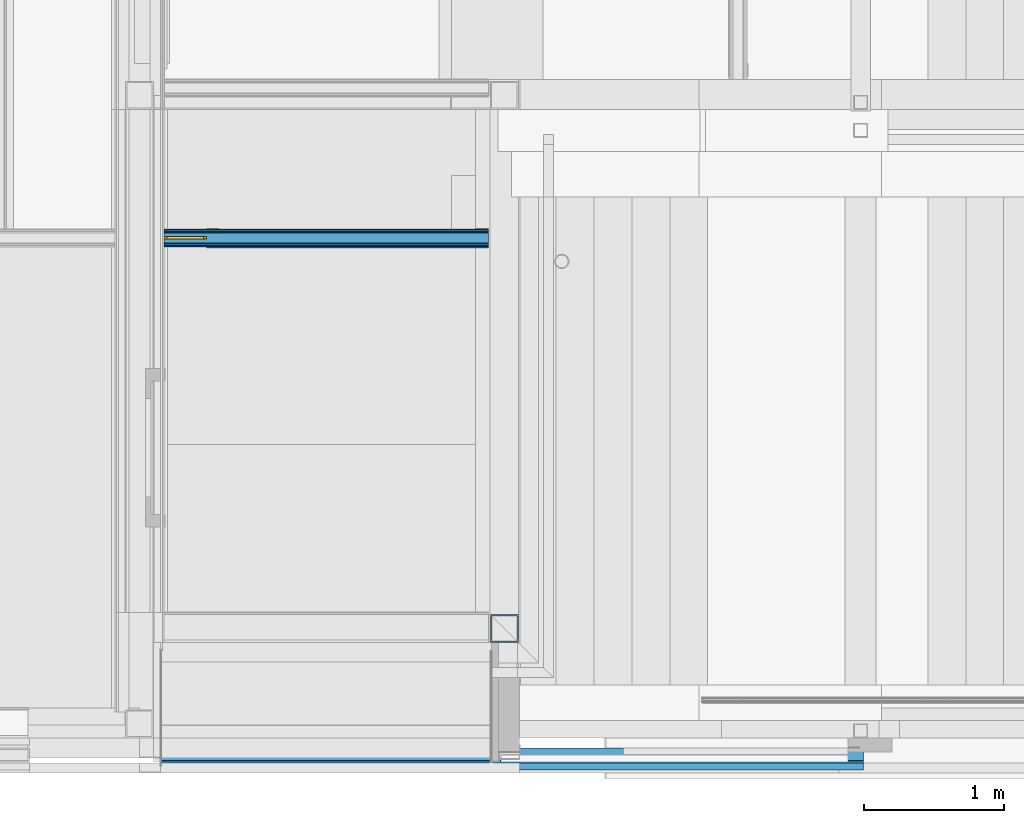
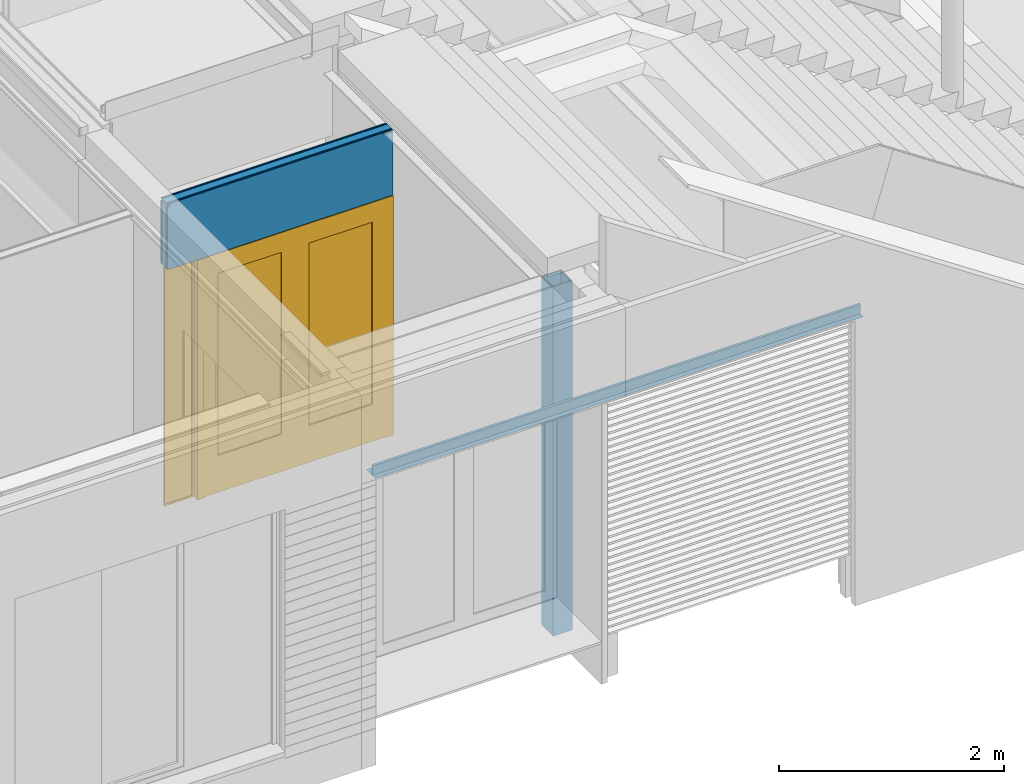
# One storey, part 45 of 165: 8 building element parts, 2 doors, 2 openings, 3 elements without a shape of their own.
"""IFC2X3 building model written with IfcOpenShell, lengths in millimetres."""

from ifc_helpers import new_model, entity, si_unit, converted_unit, derived_unit, money_unit, direction, frame, origin_with_axes, place, context, subcontext, project, spatial, open_shell, faceted_brep, surface_model, material, type_object, element, fill, aggregate, save


model = new_model("IFC2X3")

# Units and contexts
model_context = context("Model", 3, precision=0.01, world=origin_with_axes(), true_north=direction((0.0, 1.0)))
body_context = subcontext(model_context, "Body", "Model", "MODEL_VIEW")
ifc_project = project(units=[si_unit("LENGTHUNIT", "METRE", prefix="MILLI"), si_unit("AREAUNIT", "SQUARE_METRE"), si_unit("VOLUMEUNIT", "CUBIC_METRE"), converted_unit("PLANEANGLEUNIT", "DEGREE", entity("IfcPlaneAngleMeasure", 0.0174532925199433), si_unit("PLANEANGLEUNIT", "RADIAN"), dimensions=[0, 0, 0, 0, 0, 0, 0]), money_unit("EUR"), converted_unit("TIMEUNIT", "Year", entity("IfcTimeMeasure", 31556926.0), si_unit("TIMEUNIT", "SECOND"), dimensions=[0, 0, 1, 0, 0, 0, 0]), si_unit("MASSUNIT", "GRAM", prefix="KILO"), si_unit("THERMODYNAMICTEMPERATUREUNIT", "DEGREE_CELSIUS"), si_unit("LUMINOUSINTENSITYUNIT", "LUMEN"), si_unit("ENERGYUNIT", "JOULE", prefix="MEGA"), derived_unit("THERMALCONDUCTANCEUNIT", [(si_unit("POWERUNIT", "WATT"), 1), (si_unit("LENGTHUNIT", "METRE"), -1), (si_unit("THERMODYNAMICTEMPERATUREUNIT", "KELVIN"), -1)]), derived_unit("SPECIFICHEATCAPACITYUNIT", [(si_unit("ENERGYUNIT", "JOULE"), 1), (si_unit("MASSUNIT", "GRAM", prefix="KILO"), -1), (si_unit("THERMODYNAMICTEMPERATUREUNIT", "KELVIN"), -1)]), derived_unit("MASSDENSITYUNIT", [(si_unit("MASSUNIT", "GRAM", prefix="KILO"), 1), (si_unit("VOLUMEUNIT", "CUBIC_METRE"), -1)])], contexts=[model_context])

# Site, building, storey
site_placement = place(None, origin_with_axes())
site = spatial("IfcSite", under=ifc_project, at=site_placement, Name="Site", CompositionType="ELEMENT")
building_placement = place(site_placement, origin_with_axes())
building = spatial("IfcBuilding", under=site, at=building_placement, Name="Naam gebouw", CompositionType="ELEMENT")
storey_placement = place(building_placement, origin_with_axes())
storey = spatial("IfcBuildingStorey", under=building, at=storey_placement, Name="Begane grond", CompositionType="ELEMENT", Elevation=0.0)

# Door
door_style_1 = type_object("IfcDoorStyle", Name="R1 26", ConstructionType="NOTDEFINED", OperationType="SINGLE_SWING_RIGHT", ParameterTakesPrecedence=False, Sizeable=False)
proxy_placement = place(storey_placement, frame((8850.000000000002, 3624.995712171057, -100.0), z_axis=(0.0, 0.0, 1.0), x_axis=(1.0, 0.0, 0.0)))
opening_2_placement = place(proxy_placement, frame((325.5000000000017, 0.0, 100.0), z_axis=(0.0, 0.0, 1.0), x_axis=(1.0, 0.0, 0.0)))
door_1_placement = place(opening_2_placement, frame((-150.500000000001, 0.0, 0.0), z_axis=(0.0, 0.0, 1.0), x_axis=(1.0, 0.0, 0.0)))
door_1 = element("IfcDoor", 1, at=door_1_placement, inside=storey, type_object=door_style_1, Name="_B.16", ObjectType="DOOR", OverallHeight=2600.0, OverallWidth=301.0, context=body_context, shape_type="SurfaceModel", body=[
    faceted_brep([(281.0000000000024, -69.99999999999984, 2580.0), (301.0000000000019, -69.99999999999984, 2580.0), (301.0000000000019, -49.99999999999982, 2580.0), (281.0000000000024, -49.99999999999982, 2580.0), (281.0000000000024, -69.99999999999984, 20.0), (301.0000000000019, -69.99999999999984, 20.0), (301.0000000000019, -49.99999999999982, 20.0), (281.0000000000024, -49.99999999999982, 20.0)], [[[0, 1, 2, 3]], [[0, 4, 5, 1]], [[1, 5, 6, 2]], [[3, 2, 6, 7]], [[4, 0, 3, 7]], [[5, 4, 7, 6]]]),
    faceted_brep([(19.99999999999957, -69.99999999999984, 20.0), (0.0, -69.99999999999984, 20.0), (0.0, -49.99999999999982, 20.0), (19.99999999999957, -49.99999999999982, 20.0), (19.99999999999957, -69.99999999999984, 2580.0), (0.0, -69.99999999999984, 2580.0), (0.0, -49.99999999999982, 2580.0), (19.99999999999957, -49.99999999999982, 2580.0)], [[[0, 1, 2, 3]], [[0, 4, 5, 1]], [[1, 5, 6, 2]], [[3, 2, 6, 7]], [[4, 0, 3, 7]], [[5, 4, 7, 6]]]),
    faceted_brep([(281.0000000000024, -69.99999999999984, 20.0), (301.0000000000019, -69.99999999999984, 20.0), (301.0000000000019, -49.99999999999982, 20.0), (281.0000000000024, -49.99999999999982, 20.0), (19.99999999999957, -69.99999999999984, 20.0), (0.0, -69.99999999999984, 20.0), (0.0, -69.99999999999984, 0.0), (301.0000000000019, -69.99999999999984, 0.0), (301.0000000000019, -49.99999999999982, 0.0), (0.0, -49.99999999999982, 0.0), (0.0, -49.99999999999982, 20.0), (19.99999999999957, -49.99999999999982, 20.0)], [[[0, 1, 2, 3]], [[0, 4, 5, 6, 7, 1]], [[1, 7, 8, 2]], [[3, 2, 8, 9, 10, 11]], [[4, 0, 3, 11]], [[5, 4, 11, 10]], [[6, 5, 10, 9]], [[7, 6, 9, 8]]]),
    faceted_brep([(19.99999999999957, -69.99999999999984, 2580.0), (0.0, -69.99999999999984, 2580.0), (0.0, -49.99999999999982, 2580.0), (19.99999999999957, -49.99999999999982, 2580.0), (281.0000000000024, -69.99999999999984, 2580.0), (301.0000000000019, -69.99999999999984, 2580.0), (301.0000000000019, -69.99999999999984, 2600.0), (0.0, -69.99999999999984, 2600.0), (0.0, -49.99999999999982, 2600.0), (301.0000000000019, -49.99999999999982, 2600.0), (301.0000000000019, -49.99999999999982, 2580.0), (281.0000000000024, -49.99999999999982, 2580.0)], [[[0, 1, 2, 3]], [[0, 4, 5, 6, 7, 1]], [[1, 7, 8, 2]], [[3, 2, 8, 9, 10, 11]], [[4, 0, 3, 11]], [[5, 4, 11, 10]], [[6, 5, 10, 9]], [[7, 6, 9, 8]]]),
    surface_model("IfcShellBasedSurfaceModel", [(281.0000000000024, -64.99999999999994, 20.0), (281.0000000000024, -64.99999999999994, 2580.0), (19.99999999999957, -64.99999999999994, 2580.0), (19.99999999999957, -64.99999999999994, 20.0)], [open_shell([[[0, 1, 2, 3]]])]),
    surface_model("IfcShellBasedSurfaceModel", [(281.0000000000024, -54.99999999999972, 20.0), (19.99999999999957, -54.99999999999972, 20.0), (19.99999999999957, -55.00000000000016, 2580.0), (281.0000000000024, -55.00000000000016, 2580.0)], [open_shell([[[0, 1, 2, 3]]])]),
])

door_style_2 = type_object("IfcDoorStyle", Name="D2 26", ConstructionType="NOTDEFINED", OperationType="DOUBLE_DOOR_SINGLE_SWING", ParameterTakesPrecedence=False, Sizeable=False)
opening_1_placement = place(proxy_placement, frame((1481.000000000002, 0.0, 100.0), z_axis=(0.0, 0.0, 1.0), x_axis=(1.0, 0.0, 0.0)))
door_2_placement = place(opening_1_placement, frame((914.9999999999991, 0.0, 0.0), z_axis=(0.0, 0.0, 1.0), x_axis=(-1.0, 0.0, 0.0)))
door_2 = element("IfcDoor", 2, at=door_2_placement, inside=storey, type_object=door_style_2, Name="_03.02", ObjectType="DOOR", OverallHeight=2600.0, OverallWidth=2010.0, context=body_context, shape_type="SurfaceModel", body=[
    faceted_brep([(1830.0, 92.00000000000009, 0.0), (1830.0, -7.000000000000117, 0.0), (1830.0, -7.000000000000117, 2510.0), (1830.0, 91.99999999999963, 2510.0), (1847.0, 92.00000000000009, 0.0), (1847.0, 132.0000000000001, 0.0), (1920.0, 132.0000000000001, 0.0), (1920.0, -7.000000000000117, 0.0), (1920.0, -7.000000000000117, 2510.0), (1847.0, 91.99999999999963, 2510.0), (1920.0, 131.9999999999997, 2510.0), (1847.0, 131.9999999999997, 2510.0)], [[[0, 1, 2, 3]], [[4, 5, 6, 7, 1, 0]], [[1, 7, 8, 2]], [[9, 3, 2, 8, 10, 11]], [[9, 4, 0, 3]], [[11, 5, 4, 9]], [[11, 10, 6, 5]], [[6, 10, 8, 7]]]),
    faceted_brep([(-17.00000000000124, 92.00000000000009, 2510.0), (-17.00000000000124, 132.0000000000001, 2510.0), (-90.00000000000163, 132.0000000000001, 2510.0), (-90.00000000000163, -7.000000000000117, 2510.0), (0.0, -7.000000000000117, 2510.0), (0.0, 92.00000000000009, 2510.0), (-17.00000000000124, 92.00000000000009, 0.0), (-17.00000000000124, 132.0000000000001, 0.0), (-90.00000000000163, 132.0000000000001, 0.0), (-90.00000000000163, -6.999999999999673, 0.0), (0.0, -6.999999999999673, 0.0), (0.0, 92.00000000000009, 0.0)], [[[0, 1, 2, 3, 4, 5]], [[0, 6, 7, 1]], [[7, 8, 2, 1]], [[2, 8, 9, 3]], [[3, 9, 10, 4]], [[5, 4, 10, 11]], [[5, 11, 6, 0]], [[6, 11, 10, 9, 8, 7]]]),
    faceted_brep([(1847.0, 131.9999999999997, 2527.0), (-17.00000000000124, 132.0000000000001, 2527.0), (-17.00000000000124, 132.0000000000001, 2510.0), (-90.00000000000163, 132.0000000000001, 2510.0), (-90.00000000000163, 132.0000000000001, 2600.0), (1920.0, 131.9999999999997, 2600.0), (1920.0, 131.9999999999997, 2510.0), (1847.0, 131.9999999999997, 2510.0), (1847.0, 91.99999999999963, 2527.0), (-17.00000000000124, 92.00000000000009, 2527.0), (-17.00000000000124, 92.00000000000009, 2510.0), (0.0, 92.00000000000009, 2510.0), (0.0, -7.000000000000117, 2510.0), (-90.00000000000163, -7.000000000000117, 2510.0), (-90.00000000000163, -7.000000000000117, 2600.0), (1920.0, -7.000000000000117, 2600.0), (1920.0, -7.000000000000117, 2510.0), (1847.0, 91.99999999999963, 2510.0), (1830.0, -7.000000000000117, 2510.0), (1830.0, 91.99999999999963, 2510.0)], [[[0, 1, 2, 3, 4, 5, 6, 7]], [[0, 8, 9, 1]], [[1, 9, 10, 2]], [[10, 11, 12, 13, 3, 2]], [[4, 3, 13, 14]], [[5, 4, 14, 15]], [[6, 5, 15, 16]], [[17, 7, 6, 16, 18, 19]], [[7, 17, 8, 0]], [[10, 9, 8, 17, 19, 11]], [[19, 18, 12, 11]], [[12, 18, 16, 15, 14, 13]]]),
    faceted_brep([(-17.00000000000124, 132.0000000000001, 410.0000000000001), (122.9999999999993, 132.0000000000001, 410.0000000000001), (122.9999999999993, 92.00000000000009, 410.0000000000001), (-17.00000000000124, 92.00000000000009, 410.0000000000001), (-17.00000000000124, 132.0000000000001, 2387.0), (122.9999999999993, 132.0000000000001, 2387.0), (122.9999999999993, 92.00000000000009, 2387.0), (-17.00000000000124, 92.00000000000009, 2387.0)], [[[0, 1, 2, 3]], [[0, 4, 5, 1]], [[1, 5, 6, 2]], [[3, 2, 6, 7]], [[4, 0, 3, 7]], [[5, 4, 7, 6]]]),
    faceted_brep([(914.9999999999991, 132.0000000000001, 410.0000000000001), (914.9999999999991, 131.9999999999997, 2387.0), (914.9999999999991, 91.99999999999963, 2387.0), (914.9999999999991, 92.00000000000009, 410.0000000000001), (774.9999999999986, 132.0000000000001, 410.0000000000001), (774.9999999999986, 131.9999999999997, 2387.0), (774.9999999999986, 91.99999999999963, 2387.0), (774.9999999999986, 92.00000000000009, 410.0000000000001)], [[[0, 1, 2, 3]], [[0, 4, 5, 1]], [[1, 5, 6, 2]], [[3, 2, 6, 7]], [[4, 0, 3, 7]], [[5, 4, 7, 6]]]),
    faceted_brep([(-17.00000000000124, 132.0000000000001, 10.0), (914.9999999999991, 132.0000000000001, 10.0), (914.9999999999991, 92.00000000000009, 9.999999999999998), (-17.00000000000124, 92.00000000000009, 9.999999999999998), (-17.00000000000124, 132.0000000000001, 410.0000000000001), (122.9999999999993, 132.0000000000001, 410.0000000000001), (774.9999999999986, 132.0000000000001, 410.0000000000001), (914.9999999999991, 132.0000000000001, 410.0000000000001), (914.9999999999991, 92.00000000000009, 410.0000000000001), (774.9999999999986, 92.00000000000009, 410.0000000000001), (122.9999999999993, 92.00000000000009, 410.0000000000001), (-17.00000000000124, 92.00000000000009, 410.0000000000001)], [[[0, 1, 2, 3]], [[0, 4, 5, 6, 7, 1]], [[1, 7, 8, 2]], [[3, 2, 8, 9, 10, 11]], [[4, 0, 3, 11]], [[5, 4, 11, 10]], [[6, 5, 10, 9]], [[7, 6, 9, 8]]]),
    faceted_brep([(-17.00000000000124, 132.0000000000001, 2527.0), (-17.00000000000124, 132.0000000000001, 2387.0), (-17.00000000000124, 92.00000000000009, 2387.0), (-17.00000000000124, 92.00000000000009, 2527.0), (914.9999999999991, 131.9999999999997, 2527.0), (914.9999999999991, 131.9999999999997, 2387.0), (774.9999999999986, 131.9999999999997, 2387.0), (122.9999999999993, 132.0000000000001, 2387.0), (122.9999999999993, 92.00000000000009, 2387.0), (774.9999999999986, 91.99999999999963, 2387.0), (914.9999999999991, 91.99999999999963, 2387.0), (914.9999999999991, 91.99999999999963, 2527.0)], [[[0, 1, 2, 3]], [[0, 4, 5, 6, 7, 1]], [[1, 7, 8, 2]], [[3, 2, 8, 9, 10, 11]], [[4, 0, 3, 11]], [[5, 4, 11, 10]], [[6, 5, 10, 9]], [[7, 6, 9, 8]]]),
    surface_model("IfcShellBasedSurfaceModel", [(122.9999999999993, 118.0000000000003, 410.0000000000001), (122.9999999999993, 117.9999999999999, 2387.0), (774.9999999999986, 117.9999999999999, 2387.0), (774.9999999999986, 118.0000000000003, 410.0000000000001)], [open_shell([[[0, 1, 2, 3]]])]),
    surface_model("IfcShellBasedSurfaceModel", [(122.9999999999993, 106.0000000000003, 410.0000000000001), (774.9999999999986, 106.0000000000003, 410.0000000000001), (774.9999999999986, 105.9999999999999, 2387.0), (122.9999999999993, 105.9999999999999, 2387.0)], [open_shell([[[0, 1, 2, 3]]])]),
    faceted_brep([(1847.0, 132.0000000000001, 410.0000000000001), (1847.0, 92.00000000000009, 410.0000000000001), (1706.999999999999, 92.00000000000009, 410.0000000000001), (1706.999999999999, 132.0000000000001, 410.0000000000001), (1847.0, 131.9999999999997, 2387.0), (1847.0, 91.99999999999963, 2387.0), (1706.999999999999, 91.99999999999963, 2387.0), (1706.999999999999, 131.9999999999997, 2387.0)], [[[0, 1, 2, 3]], [[4, 5, 1, 0]], [[1, 5, 6, 2]], [[3, 2, 6, 7]], [[0, 3, 7, 4]], [[7, 6, 5, 4]]]),
    faceted_brep([(914.9999999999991, 132.0000000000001, 410.0000000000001), (914.9999999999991, 92.00000000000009, 410.0000000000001), (914.9999999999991, 91.99999999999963, 2387.0), (914.9999999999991, 131.9999999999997, 2387.0), (1055.0, 132.0000000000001, 410.0000000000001), (1055.0, 92.00000000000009, 410.0000000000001), (1055.0, 91.99999999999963, 2387.0), (1055.0, 131.9999999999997, 2387.0)], [[[0, 1, 2, 3]], [[4, 5, 1, 0]], [[1, 5, 6, 2]], [[3, 2, 6, 7]], [[0, 3, 7, 4]], [[7, 6, 5, 4]]]),
    faceted_brep([(1847.0, 132.0000000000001, 10.0), (1847.0, 92.00000000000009, 9.999999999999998), (914.9999999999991, 92.00000000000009, 9.999999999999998), (914.9999999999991, 132.0000000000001, 10.0), (1847.0, 132.0000000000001, 410.0000000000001), (1847.0, 92.00000000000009, 410.0000000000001), (1706.999999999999, 92.00000000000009, 410.0000000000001), (1055.0, 92.00000000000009, 410.0000000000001), (914.9999999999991, 92.00000000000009, 410.0000000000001), (914.9999999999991, 132.0000000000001, 410.0000000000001), (1055.0, 132.0000000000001, 410.0000000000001), (1706.999999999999, 132.0000000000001, 410.0000000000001)], [[[0, 1, 2, 3]], [[4, 5, 1, 0]], [[1, 5, 6, 7, 8, 2]], [[3, 2, 8, 9]], [[0, 3, 9, 10, 11, 4]], [[11, 6, 5, 4]], [[10, 7, 6, 11]], [[9, 8, 7, 10]]]),
    faceted_brep([(1847.0, 131.9999999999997, 2527.0), (1847.0, 91.99999999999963, 2527.0), (1847.0, 91.99999999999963, 2387.0), (1847.0, 131.9999999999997, 2387.0), (914.9999999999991, 131.9999999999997, 2527.0), (914.9999999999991, 91.99999999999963, 2527.0), (914.9999999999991, 91.99999999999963, 2387.0), (1055.0, 91.99999999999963, 2387.0), (1706.999999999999, 91.99999999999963, 2387.0), (1706.999999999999, 131.9999999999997, 2387.0), (1055.0, 131.9999999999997, 2387.0), (914.9999999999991, 131.9999999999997, 2387.0)], [[[0, 1, 2, 3]], [[4, 5, 1, 0]], [[1, 5, 6, 7, 8, 2]], [[3, 2, 8, 9]], [[0, 3, 9, 10, 11, 4]], [[11, 6, 5, 4]], [[10, 7, 6, 11]], [[9, 8, 7, 10]]]),
    surface_model("IfcShellBasedSurfaceModel", [(1706.999999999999, 117.9999999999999, 410.0000000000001), (1055.0, 117.9999999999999, 410.0000000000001), (1055.0, 117.9999999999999, 2387.0), (1706.999999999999, 117.9999999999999, 2387.0)], [open_shell([[[0, 1, 2, 3]]])]),
    surface_model("IfcShellBasedSurfaceModel", [(1706.999999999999, 105.9999999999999, 410.0000000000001), (1706.999999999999, 105.9999999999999, 2387.0), (1055.0, 105.9999999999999, 2387.0), (1055.0, 105.9999999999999, 410.0000000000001)], [open_shell([[[0, 1, 2, 3]]])]),
])

# Beam, building element parts
beam_type = type_object("IfcBeamType", Name="41 Latei/geveldrager 158 x 112", PredefinedType="BEAM")
beam_placement = place(storey_placement, frame((14010.0, -180.0001676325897, 2610.0), z_axis=(0.0, 0.0, 1.0), x_axis=(0.0, 1.0, 0.0)))
beam = element("IfcBeam", 3, at=beam_placement, inside=storey, type_object=beam_type, Name="_Regenwaterafvoer-x", ObjectType="BEAM")
ifc_material_1 = material(Name="Metaal - Staal C")
building_element_part_1_placement = place(beam_placement, origin_with_axes())
building_element_part_1 = element("IfcBuildingElementPart", 4, at=building_element_part_1_placement, material=ifc_material_1, Name="Metaal - Staal C", context=body_context, shape_type="Brep", body=[
    faceted_brep([(3.000000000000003, 5010.000000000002, -3.000000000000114), (108.0, 5010.000000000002, -3.000000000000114), (108.0, 0.0, -3.000000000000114), (3.000000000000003, 0.0, -3.000000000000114), (3.000000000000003, 5010.000000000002, 0.0), (108.0, 5010.000000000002, 0.0), (108.0, 0.0, 0.0), (3.000000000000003, 0.0, 0.0)], [[[0, 1, 2, 3]], [[0, 4, 5, 1]], [[1, 5, 6, 2]], [[3, 2, 6, 7]], [[4, 0, 3, 7]], [[5, 4, 7, 6]]]),
])
building_element_part_2_placement = place(beam_placement, origin_with_axes())
building_element_part_2 = element("IfcBuildingElementPart", 5, at=building_element_part_2_placement, material=ifc_material_1, Name="Metaal - Staal C", context=body_context, shape_type="Brep", body=[
    faceted_brep([(-49.99999999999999, 5010.000000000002, 6.55651533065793e-07), (-49.99999999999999, 5010.000000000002, -3.000000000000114), (-49.99999999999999, 0.0, -3.000000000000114), (-49.99999999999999, 0.0, 6.55651533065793e-07), (-5.960468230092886e-08, 5010.000000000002, 6.55651533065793e-07), (-5.960468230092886e-08, 5010.000000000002, 99.3417707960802), (16.54654975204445, 5010.000000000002, 108.894926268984), (18.04655007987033, 5010.000000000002, 106.296849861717), (3.000000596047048, 5010.000000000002, 96.99999988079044), (3.000000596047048, 5010.000000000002, 6.55651533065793e-07), (3.000000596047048, 5010.000000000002, -3.000000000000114), (3.000000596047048, 0.0, -3.000000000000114), (3.000000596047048, 0.0, 6.55651533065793e-07), (3.000000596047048, 0.0, 96.99999988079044), (18.04655007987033, 0.0, 106.296849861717), (16.54654975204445, 0.0, 108.894926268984), (-5.960468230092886e-08, 0.0, 99.3417707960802), (-5.960468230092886e-08, 0.0, 6.55651533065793e-07)], [[[0, 1, 2, 3]], [[0, 4, 5, 6, 7, 8, 9, 10, 1]], [[1, 10, 11, 2]], [[3, 2, 11, 12, 13, 14, 15, 16, 17]], [[4, 0, 3, 17]], [[5, 4, 17, 16]], [[6, 5, 16, 15]], [[7, 6, 15, 14]], [[8, 7, 14, 13]], [[9, 8, 13, 12]], [[10, 9, 12, 11]]]),
])
aggregate(beam, [building_element_part_1, building_element_part_2])

# Proxy, opening
building_element_proxy_type = type_object("IfcBuildingElementProxyType", Name="22 Metal stud 125 gips 125", PredefinedType="NOTDEFINED")
proxy = element("IfcBuildingElementProxy", 6, at=proxy_placement, inside=storey, type_object=building_element_proxy_type, Name="_Wand-x")
opening_1 = element("IfcOpeningElement", 7, at=opening_1_placement, cuts=proxy, Name="_03.02", context=body_context, shape_type="Brep", body=[
    faceted_brep([(-1005.000000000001, -126.0000000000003, 2600.0), (-1005.000000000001, -126.0000000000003, -100.0000000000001), (1005.000000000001, -126.0000000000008, -100.0000000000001), (1005.000000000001, -126.0000000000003, 2600.0), (-1005.000000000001, 1.000000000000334, 2600.0), (-1005.000000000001, 1.000000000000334, -100.0000000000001), (1005.000000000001, 0.9999999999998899, -100.0000000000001), (1005.000000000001, 1.000000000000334, 2600.0)], [[[0, 1, 2, 3]], [[4, 5, 1, 0]], [[5, 6, 2, 1]], [[6, 7, 3, 2]], [[7, 4, 0, 3]], [[6, 5, 4, 7]]]),
])

fill(opening_1, door_2)

# Opening
opening_2 = element("IfcOpeningElement", 8, at=opening_2_placement, cuts=proxy, Name="_B.16", context=body_context, shape_type="Brep", body=[
    faceted_brep([(-150.500000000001, -49.99999999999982, -100.0000000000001), (-150.500000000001, -49.99999999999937, 2600.0), (-150.500000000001, 1.000000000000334, 2600.0), (-150.500000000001, 0.9999999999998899, -100.0000000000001), (-150.500000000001, -126.0000000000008, -100.0000000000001), (-150.500000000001, -126.0000000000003, 2600.0), (150.500000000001, -49.99999999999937, 2600.0), (150.500000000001, 1.000000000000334, 2600.0), (150.500000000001, -126.0000000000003, 2600.0), (150.500000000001, 0.9999999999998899, -100.0000000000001), (150.500000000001, -49.99999999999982, -100.0000000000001), (150.500000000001, -126.0000000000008, -100.0000000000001)], [[[0, 1, 2, 3]], [[1, 0, 4, 5]], [[6, 7, 2, 1, 5, 8]], [[7, 9, 3, 2]], [[0, 3, 9, 10, 11, 4]], [[5, 4, 11, 8]], [[6, 10, 9, 7]], [[10, 6, 8, 11]]]),
])

fill(opening_2, door_1)

# Building element part
ifc_material_2 = material(Name="Gipsplaat")
building_element_part_3_placement = place(proxy_placement, origin_with_axes())
building_element_part_3 = element("IfcBuildingElementPart", 9, at=building_element_part_3_placement, material=ifc_material_2, Name="Gipsplaat", context=body_context, shape_type="Brep", body=[
    faceted_brep([(2486.000000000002, -12.49999999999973, 2700.0), (2486.000000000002, 0.0, 2700.0), (2486.000000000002, 0.0, 3390.000000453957), (2486.000000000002, -12.49999999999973, 3390.000000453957), (476.0000000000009, 0.0, 2700.0), (476.0000000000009, -12.49999999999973, 2700.0), (175.0000000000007, -12.49999999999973, 2700.0), (175.0000000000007, 0.0, 2700.0), (175.0000000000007, 0.0, 3380.000002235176), (199.9999999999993, 0.0, 3380.000002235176), (199.9999999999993, 0.0, 3405.000002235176), (175.0000000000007, 0.0, 3405.000002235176), (175.0000000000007, 0.0, 3410.0), (2486.000000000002, 0.0, 3410.0), (2486.000000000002, 0.0, 3405.000000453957), (2395.999995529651, 0.0, 3405.000000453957), (2395.999995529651, 0.0, 3390.000000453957), (2395.999995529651, -12.49999999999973, 3390.000000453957), (2395.999995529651, -12.49999999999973, 3405.000000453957), (2486.000000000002, -12.49999999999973, 3405.000000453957), (2486.000000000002, -12.49999999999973, 3410.0), (175.0000000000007, -12.49999999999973, 3410.0), (175.0000000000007, -12.49999999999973, 3405.000002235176), (199.9999999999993, -12.49999999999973, 3405.000002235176), (199.9999999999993, -12.49999999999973, 3380.000002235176), (175.0000000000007, -12.49999999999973, 3380.000002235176)], [[[0, 1, 2, 3]], [[4, 1, 0, 5, 6, 7]], [[1, 4, 7, 8, 9, 10, 11, 12, 13, 14, 15, 16, 2]], [[16, 17, 3, 2]], [[5, 0, 3, 17, 18, 19, 20, 21, 22, 23, 24, 25, 6]], [[6, 25, 8, 7]], [[25, 24, 9, 8]], [[24, 23, 10, 9]], [[23, 22, 11, 10]], [[21, 12, 11, 22]], [[12, 21, 20, 13]], [[13, 20, 19, 14]], [[19, 18, 15, 14]], [[18, 17, 16, 15]]]),
])

building_element_part_4_placement = place(proxy_placement, origin_with_axes())
building_element_part_4 = element("IfcBuildingElementPart", 10, at=building_element_part_4_placement, material=ifc_material_2, Name="Gipsplaat", context=body_context, shape_type="Brep", body=[
    faceted_brep([(2486.000000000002, -24.99999999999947, 2700.0), (2486.000000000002, -12.49999999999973, 2700.0), (2486.000000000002, -12.49999999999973, 3390.000000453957), (2486.000000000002, -24.99999999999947, 3390.000000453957), (476.0000000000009, -12.49999999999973, 2700.0), (476.0000000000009, -24.99999999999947, 2700.0), (175.0000000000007, -24.99999999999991, 2700.0), (175.0000000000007, -12.49999999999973, 2700.0), (175.0000000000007, -12.49999999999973, 3380.000002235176), (199.9999999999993, -12.49999999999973, 3380.000002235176), (199.9999999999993, -12.49999999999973, 3405.000002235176), (175.0000000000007, -12.49999999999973, 3405.000002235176), (175.0000000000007, -12.49999999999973, 3410.0), (2486.000000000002, -12.49999999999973, 3410.0), (2486.000000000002, -12.49999999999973, 3405.000000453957), (2395.999995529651, -12.49999999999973, 3405.000000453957), (2395.999995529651, -12.49999999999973, 3390.000000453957), (2395.999995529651, -24.99999999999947, 3390.000000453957), (2395.999995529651, -24.99999999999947, 3405.000000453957), (2486.000000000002, -24.99999999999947, 3405.000000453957), (2486.000000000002, -24.99999999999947, 3410.0), (175.0000000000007, -24.99999999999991, 3410.0), (175.0000000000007, -24.99999999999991, 3405.000002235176), (199.9999999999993, -24.99999999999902, 3405.000002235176), (199.9999999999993, -24.99999999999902, 3380.000002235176), (175.0000000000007, -24.99999999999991, 3380.000002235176)], [[[0, 1, 2, 3]], [[4, 1, 0, 5, 6, 7]], [[1, 4, 7, 8, 9, 10, 11, 12, 13, 14, 15, 16, 2]], [[16, 17, 3, 2]], [[5, 0, 3, 17, 18, 19, 20, 21, 22, 23, 24, 25, 6]], [[6, 25, 8, 7]], [[25, 24, 9, 8]], [[24, 23, 10, 9]], [[23, 22, 11, 10]], [[21, 12, 11, 22]], [[12, 21, 20, 13]], [[13, 20, 19, 14]], [[19, 18, 15, 14]], [[18, 17, 16, 15]]]),
])

ifc_material_3 = material(Name="ALG - LICHTE SCHEIDINGSWAND")
building_element_part_5_placement = place(proxy_placement, origin_with_axes())
building_element_part_5 = element("IfcBuildingElementPart", 11, at=building_element_part_5_placement, material=ifc_material_3, Name="ALG - LICHTE SCHEIDINGSWAND", context=body_context, shape_type="Brep", body=[
    faceted_brep([(2486.000000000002, -99.99999999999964, 2700.0), (2486.000000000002, -24.99999999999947, 2700.0), (2486.000000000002, -24.99999999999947, 3390.000000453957), (2486.000000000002, -99.99999999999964, 3390.000000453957), (476.0000000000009, -25.00000000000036, 2700.0), (476.0000000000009, -99.99999999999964, 2700.0), (175.0000000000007, -99.99999999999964, 2700.0), (175.0000000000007, -24.99999999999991, 2700.0), (175.0000000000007, -24.99999999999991, 3380.000002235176), (199.9999999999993, -24.99999999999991, 3380.000002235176), (199.9999999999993, -24.99999999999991, 3405.000002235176), (175.0000000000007, -24.99999999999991, 3405.000002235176), (175.0000000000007, -24.99999999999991, 3410.0), (2486.000000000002, -24.99999999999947, 3410.0), (2486.000000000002, -24.99999999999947, 3405.000000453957), (2395.999995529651, -25.00000000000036, 3405.000000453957), (2395.999995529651, -25.00000000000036, 3390.000000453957), (2395.999995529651, -99.9999999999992, 3390.000000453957), (2395.999995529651, -99.9999999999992, 3405.000000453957), (2486.000000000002, -99.99999999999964, 3405.000000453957), (2486.000000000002, -99.99999999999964, 3410.0), (175.0000000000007, -99.99999999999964, 3410.0), (175.0000000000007, -99.99999999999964, 3405.000002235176), (199.9999999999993, -99.99999999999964, 3405.000002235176), (199.9999999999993, -99.99999999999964, 3380.000002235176), (175.0000000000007, -99.99999999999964, 3380.000002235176)], [[[0, 1, 2, 3]], [[4, 1, 0, 5, 6, 7]], [[1, 4, 7, 8, 9, 10, 11, 12, 13, 14, 15, 16, 2]], [[17, 3, 2, 16]], [[5, 0, 3, 17, 18, 19, 20, 21, 22, 23, 24, 25, 6]], [[25, 8, 7, 6]], [[24, 9, 8, 25]], [[23, 10, 9, 24]], [[22, 11, 10, 23]], [[12, 11, 22, 21]], [[21, 20, 13, 12]], [[20, 19, 14, 13]], [[18, 15, 14, 19]], [[17, 16, 15, 18]]]),
])

building_element_part_6_placement = place(proxy_placement, origin_with_axes())
building_element_part_6 = element("IfcBuildingElementPart", 12, at=building_element_part_6_placement, material=ifc_material_2, Name="Gipsplaat", context=body_context, shape_type="Brep", body=[
    faceted_brep([(2486.000000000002, -112.4999999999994, 2700.0), (2486.000000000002, -99.99999999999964, 2700.0), (2486.000000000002, -99.99999999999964, 3390.000000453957), (2486.000000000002, -112.4999999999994, 3390.000000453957), (476.0000000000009, -99.9999999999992, 2700.0), (476.0000000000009, -112.4999999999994, 2700.0), (175.0000000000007, -112.4999999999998, 2700.0), (175.0000000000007, -99.99999999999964, 2700.0), (175.0000000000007, -99.99999999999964, 3380.000002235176), (199.9999999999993, -99.9999999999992, 3380.000002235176), (199.9999999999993, -99.9999999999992, 3405.000002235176), (175.0000000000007, -99.99999999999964, 3405.000002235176), (175.0000000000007, -99.99999999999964, 3410.0), (2486.000000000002, -99.99999999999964, 3410.0), (2486.000000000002, -99.99999999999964, 3405.000000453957), (2395.999995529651, -99.9999999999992, 3405.000000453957), (2395.999995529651, -99.9999999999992, 3390.000000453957), (2395.999995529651, -112.4999999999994, 3390.000000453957), (2395.999995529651, -112.4999999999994, 3405.000000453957), (2486.000000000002, -112.4999999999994, 3405.000000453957), (2486.000000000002, -112.4999999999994, 3410.0), (175.0000000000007, -112.4999999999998, 3410.0), (175.0000000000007, -112.4999999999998, 3405.000002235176), (199.9999999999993, -112.4999999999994, 3405.000002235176), (199.9999999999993, -112.4999999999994, 3380.000002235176), (175.0000000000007, -112.4999999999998, 3380.000002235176)], [[[0, 1, 2, 3]], [[4, 1, 0, 5, 6, 7]], [[1, 4, 7, 8, 9, 10, 11, 12, 13, 14, 15, 16, 2]], [[16, 17, 3, 2]], [[5, 0, 3, 17, 18, 19, 20, 21, 22, 23, 24, 25, 6]], [[6, 25, 8, 7]], [[25, 24, 9, 8]], [[24, 23, 10, 9]], [[23, 22, 11, 10]], [[21, 12, 11, 22]], [[12, 21, 20, 13]], [[13, 20, 19, 14]], [[19, 18, 15, 14]], [[18, 17, 16, 15]]]),
])

building_element_part_7_placement = place(proxy_placement, origin_with_axes())
building_element_part_7 = element("IfcBuildingElementPart", 13, at=building_element_part_7_placement, material=ifc_material_2, Name="Gipsplaat", context=body_context, shape_type="Brep", body=[
    faceted_brep([(2486.000000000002, -124.9999999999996, 2700.0), (2486.000000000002, -112.4999999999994, 2700.0), (2486.000000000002, -112.4999999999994, 3390.000000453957), (2486.000000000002, -124.9999999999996, 3390.000000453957), (476.0000000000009, -112.4999999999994, 2700.0), (476.0000000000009, -124.9999999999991, 2700.0), (175.0000000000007, -124.9999999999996, 2700.0), (175.0000000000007, -112.4999999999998, 2700.0), (175.0000000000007, -112.4999999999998, 3380.000002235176), (199.9999999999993, -112.4999999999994, 3380.000002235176), (199.9999999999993, -112.4999999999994, 3405.000002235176), (175.0000000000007, -112.4999999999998, 3405.000002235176), (175.0000000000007, -112.4999999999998, 3410.0), (2486.000000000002, -112.4999999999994, 3410.0), (2486.000000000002, -112.4999999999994, 3405.000000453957), (2395.999995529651, -112.4999999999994, 3405.000000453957), (2395.999995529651, -112.4999999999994, 3390.000000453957), (2395.999995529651, -124.9999999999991, 3390.000000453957), (2395.999995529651, -124.9999999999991, 3405.000000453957), (2486.000000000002, -124.9999999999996, 3405.000000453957), (2486.000000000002, -124.9999999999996, 3410.0), (175.0000000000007, -124.9999999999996, 3410.0), (175.0000000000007, -124.9999999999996, 3405.000002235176), (199.9999999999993, -124.9999999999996, 3405.000002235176), (199.9999999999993, -124.9999999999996, 3380.000002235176), (175.0000000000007, -124.9999999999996, 3380.000002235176)], [[[0, 1, 2, 3]], [[4, 1, 0, 5, 6, 7]], [[1, 4, 7, 8, 9, 10, 11, 12, 13, 14, 15, 16, 2]], [[16, 17, 3, 2]], [[5, 0, 3, 17, 18, 19, 20, 21, 22, 23, 24, 25, 6]], [[6, 25, 8, 7]], [[25, 24, 9, 8]], [[24, 23, 10, 9]], [[23, 22, 11, 10]], [[21, 12, 11, 22]], [[12, 21, 20, 13]], [[13, 20, 19, 14]], [[19, 18, 15, 14]], [[18, 17, 16, 15]]]),
])

aggregate(proxy, [building_element_part_3, building_element_part_4, building_element_part_5, building_element_part_6, building_element_part_7])

# Column, building element part
column_type = type_object("IfcColumnType", Name="200X200X10 200 x 200", PredefinedType="COLUMN")
column_placement = place(storey_placement, frame((11450.00000000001, 779.9999999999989, -480.0), z_axis=(0.0, 0.0, 1.0), x_axis=(1.0, 0.0, 0.0)))
column = element("IfcColumn", 14, at=column_placement, inside=storey, type_object=column_type, Name="28_Kolom-x", ObjectType="COLUMN")
building_element_part_8_placement = place(column_placement, origin_with_axes())
building_element_part_8 = element("IfcBuildingElementPart", 15, at=building_element_part_8_placement, material=ifc_material_1, Name="Metaal - Staal C", context=body_context, shape_type="Brep", body=[
    faceted_brep([(-99.99999999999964, -99.99999999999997, 0.0), (99.99999999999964, -99.99999999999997, 0.0), (99.99999999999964, -99.99999999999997, 3790.0), (-99.99999999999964, -99.99999999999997, 3790.0), (-99.99999999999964, 99.99999999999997, 0.0), (99.99999999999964, 99.99999999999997, 0.0), (-89.99999999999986, -89.99999999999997, 0.0), (89.99999999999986, -89.99999999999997, 0.0), (89.99999999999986, 89.99999999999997, 0.0), (-89.99999999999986, 89.99999999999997, 0.0), (99.99999999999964, 99.99999999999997, 3790.0), (-99.99999999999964, 99.99999999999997, 3790.0), (-89.99999999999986, -89.99999999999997, 3790.0), (-89.99999999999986, 89.99999999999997, 3790.0), (89.99999999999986, 89.99999999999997, 3790.0), (89.99999999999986, -89.99999999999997, 3790.0)], [[[0, 1, 2, 3]], [[0, 4, 5, 1], [6, 7, 8, 9]], [[1, 5, 10, 2]], [[3, 2, 10, 11], [12, 13, 14, 15]], [[4, 0, 3, 11]], [[5, 4, 11, 10]], [[7, 6, 12, 15]], [[8, 7, 15, 14]], [[9, 8, 14, 13]], [[6, 9, 13, 12]]]),
])
aggregate(column, [building_element_part_8])

save(model, "model.ifc")
